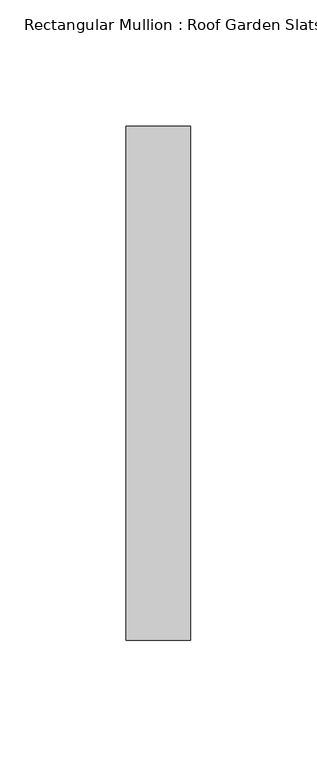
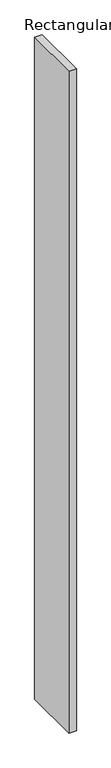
"""IFC4 building model written with IfcOpenShell, lengths in millimetres: member geometry, Rectangular Mullion : Roof Garden Slats."""

from ifc_helpers import new_model, si_unit, frame, origin, place, context, project, spatial, polyline, outline, extrude, source, transform, mapped, element, save


def rectangular_mullion_roof_garden_slats_6dd8810a(model_context):
    return source(origin(), model_context, "Body", "SweptSolid", [
        extrude(outline(polyline([(12.7, 139.7), (12.7, -63.5), (-12.7, -63.5), (-12.7, 139.7), (12.7, 139.7)])), frame((0.0, 0.0, -2400.4434545), z_axis=(0.0, 0.0, 1.0), x_axis=(1.0, 0.0, 0.0)), (0.0, 0.0, 1.0), 2400.4434545),
    ])


if __name__ == "__main__":
    model = new_model("IFC4")
    model_context = context("Model", 3, world=origin())
    ifc_project = project(units=[si_unit("LENGTHUNIT", "METRE", prefix="MILLI")], contexts=[model_context])
    site = spatial("IfcSite", under=ifc_project)
    building = spatial("IfcBuilding", under=site)
    placement = place(None, origin())
    rectangular_mullion_roof_garden_slats_shape = rectangular_mullion_roof_garden_slats_6dd8810a(model_context)
    element("IfcMember", 1, ObjectType="Rectangular Mullion : Roof Garden Slats", at=placement, inside=building, context=model_context, shape_type="MappedRepresentation", body=[
        mapped(rectangular_mullion_roof_garden_slats_shape, transform((0.0, 0.0, 0.0), x_axis=(1.0, 0.0, 0.0), y_axis=(0.0, 1.0, 0.0), z_axis=(0.0, 0.0, 1.0))),
    ])
    save(model, "model.ifc")
